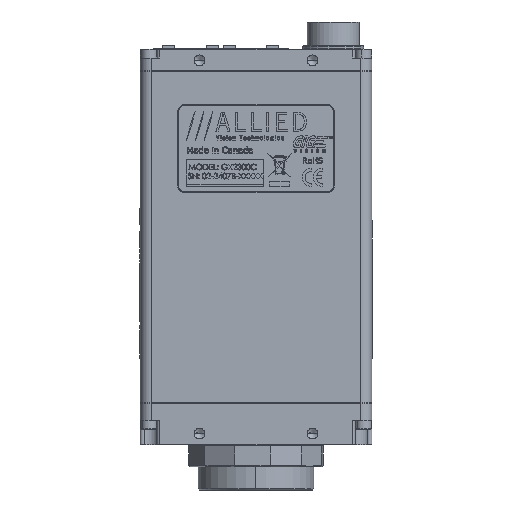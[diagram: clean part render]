
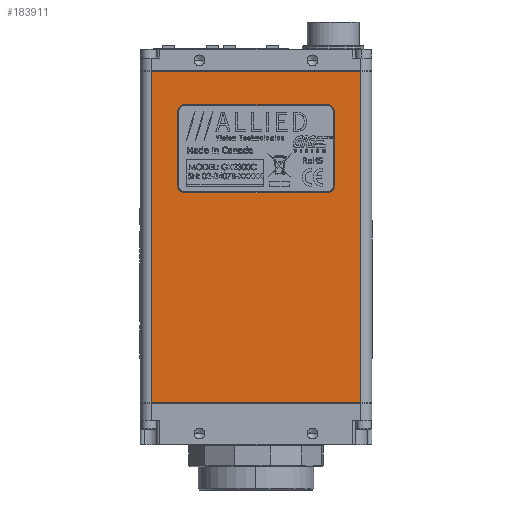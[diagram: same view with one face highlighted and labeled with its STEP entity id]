
A CAD part, front view. The second image highlights one B-rep face of the part: STEP entity #183911.
In plain terms, the highlighted planar face has unit normal (0, -1, 0).
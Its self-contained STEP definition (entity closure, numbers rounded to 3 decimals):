
#2260 = CARTESIAN_POINT ( 'NONE',  ( 24.13, -10.16, 30.48 ) ) ;
#8119 = VERTEX_POINT ( 'NONE', #205682 ) ;
#12276 = CARTESIAN_POINT ( 'NONE',  ( -18.034, -10.16, 28.893 ) ) ;
#12589 = CARTESIAN_POINT ( 'NONE',  ( -24.13, -10.16, -92.399 ) ) ;
#19561 = VERTEX_POINT ( 'NONE', #114568 ) ;
#20334 = VECTOR ( 'NONE', #194809, 1000. ) ;
#22944 = CARTESIAN_POINT ( 'NONE',  ( 18.034, -10.16, 28.893 ) ) ;
#23427 = CARTESIAN_POINT ( 'NONE',  ( 16.447, -10.16, 10.16 ) ) ;
#24961 = VECTOR ( 'NONE', #176315, 1000. ) ;
#25641 = LINE ( 'NONE', #94341, #20334 ) ;
#26387 = ORIENTED_EDGE ( 'NONE', *, *, #119735, .T. ) ;
#26731 = CARTESIAN_POINT ( 'NONE',  ( 24.13, -10.16, -92.399 ) ) ;
#29502 = DIRECTION ( 'NONE',  ( 0., 0., -1. ) ) ;
#30228 = VECTOR ( 'NONE', #119665, 1000. ) ;
#39423 = CARTESIAN_POINT ( 'NONE',  ( 24.13, -10.16, 38.1 ) ) ;
#43140 = CARTESIAN_POINT ( 'NONE',  ( -16.447, -10.16, 28.893 ) ) ;
#44483 = DIRECTION ( 'NONE',  ( 0., 0., -1. ) ) ;
#47395 = VERTEX_POINT ( 'NONE', #145516 ) ;
#48440 = VECTOR ( 'NONE', #177719, 1000. ) ;
#50149 = CIRCLE ( 'NONE', #132113, 1.587 ) ;
#53797 = AXIS2_PLACEMENT_3D ( 'NONE', #93205, #210612, #110116 ) ;
#56343 = DIRECTION ( 'NONE',  ( 0., -1., 0. ) ) ;
#58013 = CARTESIAN_POINT ( 'NONE',  ( -18.034, -10.16, 11.748 ) ) ;
#59129 = CARTESIAN_POINT ( 'NONE',  ( 24.13, -10.16, 10.16 ) ) ;
#60017 = DIRECTION ( 'NONE',  ( 1., 0., 0. ) ) ;
#70272 = CARTESIAN_POINT ( 'NONE',  ( -16.447, -10.16, 30.48 ) ) ;
#70426 = LINE ( 'NONE', #12589, #198895 ) ;
#76307 = CARTESIAN_POINT ( 'NONE',  ( 16.447, -10.16, 11.748 ) ) ;
#76945 = EDGE_CURVE ( 'NONE', #8119, #200592, #78118, .T. ) ;
#77083 = CARTESIAN_POINT ( 'NONE',  ( -24.13, -10.16, 38.1 ) ) ;
#77396 = CARTESIAN_POINT ( 'NONE',  ( 18.034, -10.16, -92.399 ) ) ;
#78118 = CIRCLE ( 'NONE', #181588, 1.587 ) ;
#79300 = VERTEX_POINT ( 'NONE', #77083 ) ;
#79656 = VERTEX_POINT ( 'NONE', #23427 ) ;
#80549 = DIRECTION ( 'NONE',  ( -1., 0., 0. ) ) ;
#82782 = VERTEX_POINT ( 'NONE', #70272 ) ;
#85355 = EDGE_CURVE ( 'NONE', #200592, #146296, #135338, .T. ) ;
#87976 = CARTESIAN_POINT ( 'NONE',  ( 16.447, -10.16, 28.893 ) ) ;
#88408 = ORIENTED_EDGE ( 'NONE', *, *, #102462, .T. ) ;
#93161 = DIRECTION ( 'NONE',  ( 1., 0., 0. ) ) ;
#93205 = CARTESIAN_POINT ( 'NONE',  ( -16.447, -10.16, 11.748 ) ) ;
#94341 = CARTESIAN_POINT ( 'NONE',  ( 24.13, -10.16, -38.1 ) ) ;
#95512 = ORIENTED_EDGE ( 'NONE', *, *, #99898, .T. ) ;
#95638 = EDGE_CURVE ( 'NONE', #146296, #79656, #132100, .T. ) ;
#97679 = FACE_OUTER_BOUND ( 'NONE', #156589, .T. ) ;
#99255 = EDGE_CURVE ( 'NONE', #79656, #19561, #114163, .T. ) ;
#99745 = VERTEX_POINT ( 'NONE', #205526 ) ;
#99880 = CARTESIAN_POINT ( 'NONE',  ( 18.034, -10.16, 11.748 ) ) ;
#99898 = EDGE_CURVE ( 'NONE', #19561, #194270, #155615, .T. ) ;
#102462 = EDGE_CURVE ( 'NONE', #194270, #177287, #192770, .T. ) ;
#104866 = DIRECTION ( 'NONE',  ( 1., 0., 0. ) ) ;
#107858 = EDGE_CURVE ( 'NONE', #177287, #82782, #50149, .T. ) ;
#110116 = DIRECTION ( 'NONE',  ( 1., 0., 0. ) ) ;
#110141 = EDGE_CURVE ( 'NONE', #82782, #8119, #158771, .T. ) ;
#114163 = LINE ( 'NONE', #59129, #24961 ) ;
#114568 = CARTESIAN_POINT ( 'NONE',  ( -16.447, -10.16, 10.16 ) ) ;
#114932 = EDGE_CURVE ( 'NONE', #47395, #99745, #25641, .T. ) ;
#117983 = CARTESIAN_POINT ( 'NONE',  ( -18.034, -10.16, -92.399 ) ) ;
#119665 = DIRECTION ( 'NONE',  ( 1., 0., 0. ) ) ;
#119735 = EDGE_CURVE ( 'NONE', #99745, #170387, #137568, .T. ) ;
#124697 = ORIENTED_EDGE ( 'NONE', *, *, #107858, .T. ) ;
#125804 = EDGE_CURVE ( 'NONE', #170387, #79300, #133863, .T. ) ;
#126418 = EDGE_CURVE ( 'NONE', #79300, #47395, #70426, .T. ) ;
#130051 = VECTOR ( 'NONE', #44483, 1000. ) ;
#132100 = CIRCLE ( 'NONE', #153966, 1.587 ) ;
#132113 = AXIS2_PLACEMENT_3D ( 'NONE', #43140, #160423, #60017 ) ;
#133863 = LINE ( 'NONE', #197839, #178456 ) ;
#135338 = LINE ( 'NONE', #77396, #130051 ) ;
#137568 = LINE ( 'NONE', #26731, #48440 ) ;
#137896 = ORIENTED_EDGE ( 'NONE', *, *, #99255, .T. ) ;
#140539 = ORIENTED_EDGE ( 'NONE', *, *, #114932, .T. ) ;
#143268 = ORIENTED_EDGE ( 'NONE', *, *, #125804, .T. ) ;
#145516 = CARTESIAN_POINT ( 'NONE',  ( -24.13, -10.16, -38.1 ) ) ;
#146296 = VERTEX_POINT ( 'NONE', #99880 ) ;
#147531 = FACE_BOUND ( 'NONE', #152869, .T. ) ;
#148184 = VECTOR ( 'NONE', #185360, 1000. ) ;
#151092 = AXIS2_PLACEMENT_3D ( 'NONE', #156727, #56343, #173490 ) ;
#152571 = ORIENTED_EDGE ( 'NONE', *, *, #110141, .T. ) ;
#152869 = EDGE_LOOP ( 'NONE', ( #124697, #152571, #203465, #200417, #174364, #137896, #95512, #88408 ) ) ;
#153966 = AXIS2_PLACEMENT_3D ( 'NONE', #76307, #193655, #93161 ) ;
#155615 = CIRCLE ( 'NONE', #53797, 1.587 ) ;
#156589 = EDGE_LOOP ( 'NONE', ( #143268, #180213, #140539, #26387 ) ) ;
#156727 = CARTESIAN_POINT ( 'NONE',  ( 24.13, -10.16, -92.399 ) ) ;
#158771 = LINE ( 'NONE', #2260, #30228 ) ;
#160423 = DIRECTION ( 'NONE',  ( 0., 1., 0. ) ) ;
#170387 = VERTEX_POINT ( 'NONE', #39423 ) ;
#173490 = DIRECTION ( 'NONE',  ( 1., 0., 0. ) ) ;
#174364 = ORIENTED_EDGE ( 'NONE', *, *, #95638, .T. ) ;
#176315 = DIRECTION ( 'NONE',  ( -1., 0., 0. ) ) ;
#177287 = VERTEX_POINT ( 'NONE', #12276 ) ;
#177719 = DIRECTION ( 'NONE',  ( 0., 0., 1. ) ) ;
#178456 = VECTOR ( 'NONE', #80549, 1000. ) ;
#180213 = ORIENTED_EDGE ( 'NONE', *, *, #126418, .T. ) ;
#181588 = AXIS2_PLACEMENT_3D ( 'NONE', #87976, #205272, #104866 ) ;
#183911 = ADVANCED_FACE ( 'NONE', ( #97679, #147531 ), #189678, .T. ) ;
#185360 = DIRECTION ( 'NONE',  ( 0., 0., 1. ) ) ;
#189678 = PLANE ( 'NONE',  #151092 ) ;
#192770 = LINE ( 'NONE', #117983, #148184 ) ;
#193655 = DIRECTION ( 'NONE',  ( 0., 1., 0. ) ) ;
#194270 = VERTEX_POINT ( 'NONE', #58013 ) ;
#194809 = DIRECTION ( 'NONE',  ( 1., 0., 0. ) ) ;
#197839 = CARTESIAN_POINT ( 'NONE',  ( 24.13, -10.16, 38.1 ) ) ;
#198895 = VECTOR ( 'NONE', #29502, 1000. ) ;
#200417 = ORIENTED_EDGE ( 'NONE', *, *, #85355, .T. ) ;
#200592 = VERTEX_POINT ( 'NONE', #22944 ) ;
#203465 = ORIENTED_EDGE ( 'NONE', *, *, #76945, .T. ) ;
#205272 = DIRECTION ( 'NONE',  ( 0., 1., 0. ) ) ;
#205526 = CARTESIAN_POINT ( 'NONE',  ( 24.13, -10.16, -38.1 ) ) ;
#205682 = CARTESIAN_POINT ( 'NONE',  ( 16.447, -10.16, 30.48 ) ) ;
#210612 = DIRECTION ( 'NONE',  ( 0., 1., 0. ) ) ;
